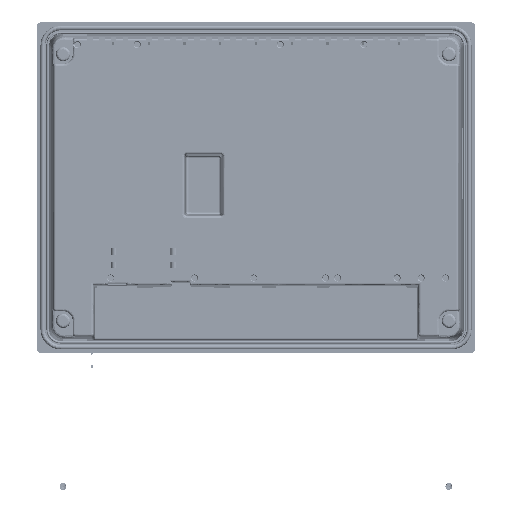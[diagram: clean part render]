
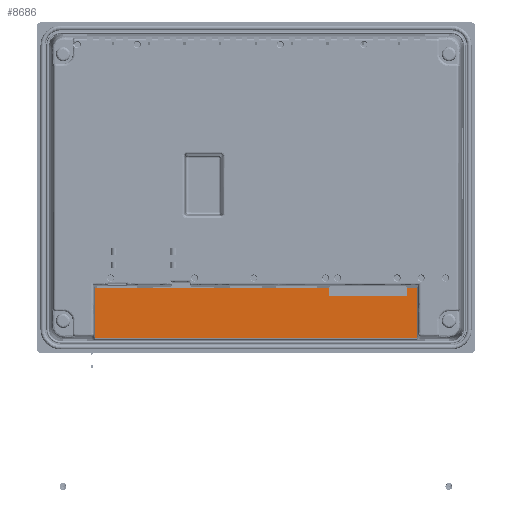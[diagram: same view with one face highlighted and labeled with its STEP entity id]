
A CAD part, front view. The second image highlights one B-rep face of the part: STEP entity #8686.
In plain terms, the highlighted planar face has unit normal (0, -1, 0).
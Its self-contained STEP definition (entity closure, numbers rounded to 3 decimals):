
#3181=(
BOUNDED_CURVE()
B_SPLINE_CURVE(2,(#245656,#245657,#245658),.UNSPECIFIED.,.F.,.F.)
B_SPLINE_CURVE_WITH_KNOTS((3,3),(3.897,3.929),
 .UNSPECIFIED.)
CURVE()
GEOMETRIC_REPRESENTATION_ITEM()
RATIONAL_B_SPLINE_CURVE((1.,1.,1.))
REPRESENTATION_ITEM('')
);
#3182=(
BOUNDED_CURVE()
B_SPLINE_CURVE(2,(#245659,#245660,#245661),.UNSPECIFIED.,.F.,.F.)
B_SPLINE_CURVE_WITH_KNOTS((3,3),(5.502,5.534),
 .UNSPECIFIED.)
CURVE()
GEOMETRIC_REPRESENTATION_ITEM()
RATIONAL_B_SPLINE_CURVE((1.,1.,1.))
REPRESENTATION_ITEM('')
);
#8686=ADVANCED_FACE('',(#12623),#70374,.T.);
#12623=FACE_OUTER_BOUND('',#16813,.T.);
#16813=EDGE_LOOP('',(#33169,#33170,#33171,#33172,#33173,#33174,#33175,#33176,
#33177,#33178,#33179,#33180,#33181,#33182,#33183,#33184,#33185,#33186));
#33169=ORIENTED_EDGE('',*,*,#47878,.F.);
#33170=ORIENTED_EDGE('',*,*,#48147,.T.);
#33171=ORIENTED_EDGE('',*,*,#47882,.F.);
#33172=ORIENTED_EDGE('',*,*,#48146,.T.);
#33173=ORIENTED_EDGE('',*,*,#47886,.F.);
#33174=ORIENTED_EDGE('',*,*,#48145,.T.);
#33175=ORIENTED_EDGE('',*,*,#47894,.F.);
#33176=ORIENTED_EDGE('',*,*,#48144,.T.);
#33177=ORIENTED_EDGE('',*,*,#47906,.F.);
#33178=ORIENTED_EDGE('',*,*,#47865,.T.);
#33179=ORIENTED_EDGE('',*,*,#48143,.T.);
#33180=ORIENTED_EDGE('',*,*,#48540,.F.);
#33181=ORIENTED_EDGE('',*,*,#48142,.T.);
#33182=ORIENTED_EDGE('',*,*,#47934,.F.);
#33183=ORIENTED_EDGE('',*,*,#47869,.F.);
#33184=ORIENTED_EDGE('',*,*,#48141,.T.);
#33185=ORIENTED_EDGE('',*,*,#48139,.F.);
#33186=ORIENTED_EDGE('',*,*,#48137,.F.);
#47865=EDGE_CURVE('',#67888,#67889,#58398,.T.);
#47869=EDGE_CURVE('',#67896,#67895,#58402,.T.);
#47878=EDGE_CURVE('',#67906,#67905,#58407,.T.);
#47882=EDGE_CURVE('',#67910,#67909,#58411,.T.);
#47886=EDGE_CURVE('',#67914,#67913,#58415,.T.);
#47894=EDGE_CURVE('',#67922,#67921,#58423,.T.);
#47906=EDGE_CURVE('',#67888,#67933,#58435,.T.);
#47934=EDGE_CURVE('',#67895,#67955,#58456,.T.);
#48137=EDGE_CURVE('',#67905,#68069,#58602,.T.);
#48139=EDGE_CURVE('',#68069,#68071,#58604,.T.);
#48141=EDGE_CURVE('',#67896,#68071,#58606,.T.);
#48142=EDGE_CURVE('',#67992,#67955,#3181,.T.);
#48143=EDGE_CURVE('',#67889,#68072,#3182,.T.);
#48144=EDGE_CURVE('',#67922,#67933,#58607,.T.);
#48145=EDGE_CURVE('',#67914,#67921,#58608,.T.);
#48146=EDGE_CURVE('',#67910,#67913,#58609,.T.);
#48147=EDGE_CURVE('',#67906,#67909,#58610,.T.);
#48540=EDGE_CURVE('',#67992,#68072,#58901,.T.);
#58398=B_SPLINE_CURVE_WITH_KNOTS('',1,(#244943,#244944),.UNSPECIFIED.,.F.,
 .F.,(2,2),(0.,1.),.UNSPECIFIED.);
#58402=B_SPLINE_CURVE_WITH_KNOTS('',1,(#244951,#244952),.UNSPECIFIED.,.F.,
 .F.,(2,2),(0.,1.),.UNSPECIFIED.);
#58407=B_SPLINE_CURVE_WITH_KNOTS('',1,(#244973,#244974),.UNSPECIFIED.,.F.,
 .F.,(2,2),(0.,1.),.UNSPECIFIED.);
#58411=B_SPLINE_CURVE_WITH_KNOTS('',1,(#244981,#244982),.UNSPECIFIED.,.F.,
 .F.,(2,2),(0.,1.),.UNSPECIFIED.);
#58415=B_SPLINE_CURVE_WITH_KNOTS('',1,(#244989,#244990),.UNSPECIFIED.,.F.,
 .F.,(2,2),(0.,1.),.UNSPECIFIED.);
#58423=B_SPLINE_CURVE_WITH_KNOTS('',1,(#245008,#245009),.UNSPECIFIED.,.F.,
 .F.,(2,2),(0.,1.),.UNSPECIFIED.);
#58435=B_SPLINE_CURVE_WITH_KNOTS('',1,(#245032,#245033),.UNSPECIFIED.,.F.,
 .F.,(2,2),(0.,1.),.UNSPECIFIED.);
#58456=B_SPLINE_CURVE_WITH_KNOTS('',1,(#245110,#245111),.UNSPECIFIED.,.F.,
 .F.,(2,2),(0.,1.),.UNSPECIFIED.);
#58602=B_SPLINE_CURVE_WITH_KNOTS('',1,(#245646,#245647),.UNSPECIFIED.,.F.,
 .F.,(2,2),(0.,1.),.UNSPECIFIED.);
#58604=B_SPLINE_CURVE_WITH_KNOTS('',1,(#245650,#245651),.UNSPECIFIED.,.F.,
 .F.,(2,2),(0.,1.),.UNSPECIFIED.);
#58606=B_SPLINE_CURVE_WITH_KNOTS('',1,(#245654,#245655),.UNSPECIFIED.,.F.,
 .F.,(2,2),(0.,1.),.UNSPECIFIED.);
#58607=B_SPLINE_CURVE_WITH_KNOTS('',1,(#245662,#245663),.UNSPECIFIED.,.F.,
 .F.,(2,2),(0.,1.),.UNSPECIFIED.);
#58608=B_SPLINE_CURVE_WITH_KNOTS('',1,(#245664,#245665),.UNSPECIFIED.,.F.,
 .F.,(2,2),(0.,1.),.UNSPECIFIED.);
#58609=B_SPLINE_CURVE_WITH_KNOTS('',1,(#245666,#245667),.UNSPECIFIED.,.F.,
 .F.,(2,2),(0.,1.),.UNSPECIFIED.);
#58610=B_SPLINE_CURVE_WITH_KNOTS('',1,(#245668,#245669),.UNSPECIFIED.,.F.,
 .F.,(2,2),(0.,1.),.UNSPECIFIED.);
#58901=B_SPLINE_CURVE_WITH_KNOTS('',1,(#246693,#246694),.UNSPECIFIED.,.F.,
 .F.,(2,2),(0.,1.),.UNSPECIFIED.);
#67888=VERTEX_POINT('',#240189);
#67889=VERTEX_POINT('',#240190);
#67895=VERTEX_POINT('',#240196);
#67896=VERTEX_POINT('',#240197);
#67905=VERTEX_POINT('',#240206);
#67906=VERTEX_POINT('',#240207);
#67909=VERTEX_POINT('',#240210);
#67910=VERTEX_POINT('',#240211);
#67913=VERTEX_POINT('',#240214);
#67914=VERTEX_POINT('',#240215);
#67921=VERTEX_POINT('',#240222);
#67922=VERTEX_POINT('',#240223);
#67933=VERTEX_POINT('',#240234);
#67955=VERTEX_POINT('',#240256);
#67992=VERTEX_POINT('',#240293);
#68069=VERTEX_POINT('',#240370);
#68071=VERTEX_POINT('',#240372);
#68072=VERTEX_POINT('',#240373);
#70374=PLANE('',#72501);
#72501=AXIS2_PLACEMENT_3D('',#230595,#74613,$);
#74613=DIRECTION('',(0.,-1.,0.));
#230595=CARTESIAN_POINT('',(-70.179,-11.,27.858));
#240189=CARTESIAN_POINT('',(-67.479,-11.,27.436));
#240190=CARTESIAN_POINT('',(-67.479,-11.,6.384));
#240196=CARTESIAN_POINT('',(67.479,-11.,27.436));
#240197=CARTESIAN_POINT('',(63.245,-11.,27.436));
#240206=CARTESIAN_POINT('',(30.755,-11.,27.436));
#240207=CARTESIAN_POINT('',(25.75,-11.,27.436));
#240210=CARTESIAN_POINT('',(8.25,-11.,27.436));
#240211=CARTESIAN_POINT('',(2.585,-11.,27.436));
#240214=CARTESIAN_POINT('',(-11.015,-11.,27.436));
#240215=CARTESIAN_POINT('',(-17.65,-11.,27.436));
#240222=CARTESIAN_POINT('',(-43.35,-11.,27.436));
#240223=CARTESIAN_POINT('',(-49.8,-11.,27.436));
#240234=CARTESIAN_POINT('',(-66.64,-11.,27.436));
#240256=CARTESIAN_POINT('',(67.479,-11.,6.384));
#240293=CARTESIAN_POINT('',(67.48,-11.,6.35));
#240370=CARTESIAN_POINT('',(30.755,-11.,23.897));
#240372=CARTESIAN_POINT('',(63.245,-11.,23.897));
#240373=CARTESIAN_POINT('',(-67.48,-11.,6.35));
#244943=CARTESIAN_POINT('',(-67.479,-11.,27.436));
#244944=CARTESIAN_POINT('',(-67.479,-11.,6.384));
#244951=CARTESIAN_POINT('',(63.245,-11.,27.436));
#244952=CARTESIAN_POINT('',(67.479,-11.,27.436));
#244973=CARTESIAN_POINT('',(25.75,-11.,27.436));
#244974=CARTESIAN_POINT('',(30.755,-11.,27.436));
#244981=CARTESIAN_POINT('',(2.585,-11.,27.436));
#244982=CARTESIAN_POINT('',(8.25,-11.,27.436));
#244989=CARTESIAN_POINT('',(-17.65,-11.,27.436));
#244990=CARTESIAN_POINT('',(-11.015,-11.,27.436));
#245008=CARTESIAN_POINT('',(-49.8,-11.,27.436));
#245009=CARTESIAN_POINT('',(-43.35,-11.,27.436));
#245032=CARTESIAN_POINT('',(-67.479,-11.,27.436));
#245033=CARTESIAN_POINT('',(-66.64,-11.,27.436));
#245110=CARTESIAN_POINT('',(67.479,-11.,27.436));
#245111=CARTESIAN_POINT('',(67.479,-11.,6.384));
#245646=CARTESIAN_POINT('',(30.755,-11.,27.436));
#245647=CARTESIAN_POINT('',(30.755,-11.,23.897));
#245650=CARTESIAN_POINT('',(30.755,-11.,23.897));
#245651=CARTESIAN_POINT('',(63.245,-11.,23.897));
#245654=CARTESIAN_POINT('',(63.245,-11.,27.436));
#245655=CARTESIAN_POINT('',(63.245,-11.,23.897));
#245656=CARTESIAN_POINT('',(67.48,-11.,6.35));
#245657=CARTESIAN_POINT('',(67.479,-11.,6.367));
#245658=CARTESIAN_POINT('',(67.479,-11.,6.384));
#245659=CARTESIAN_POINT('',(-67.479,-11.,6.384));
#245660=CARTESIAN_POINT('',(-67.479,-11.,6.367));
#245661=CARTESIAN_POINT('',(-67.48,-11.,6.35));
#245662=CARTESIAN_POINT('',(-49.8,-11.,27.436));
#245663=CARTESIAN_POINT('',(-66.64,-11.,27.436));
#245664=CARTESIAN_POINT('',(-17.65,-11.,27.436));
#245665=CARTESIAN_POINT('',(-43.35,-11.,27.436));
#245666=CARTESIAN_POINT('',(2.585,-11.,27.436));
#245667=CARTESIAN_POINT('',(-11.015,-11.,27.436));
#245668=CARTESIAN_POINT('',(25.75,-11.,27.436));
#245669=CARTESIAN_POINT('',(8.25,-11.,27.436));
#246693=CARTESIAN_POINT('',(67.48,-11.,6.35));
#246694=CARTESIAN_POINT('',(-67.48,-11.,6.35));
